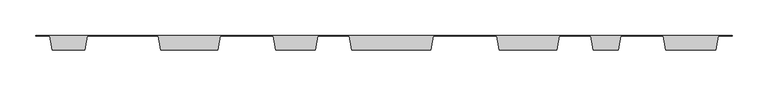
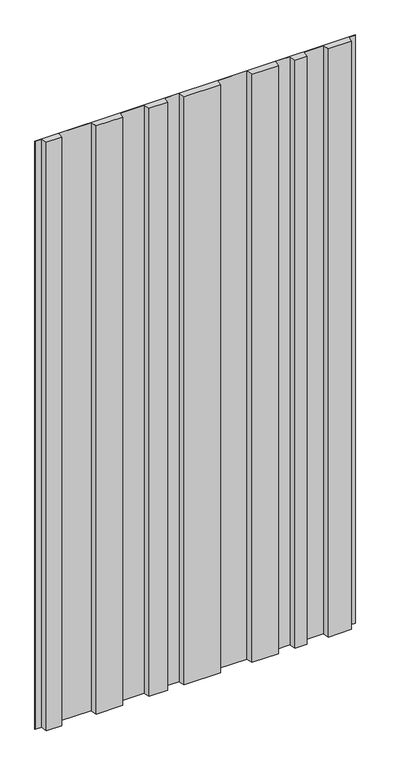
"""IFC4 building model written with IfcOpenShell, lengths in millimetres: plate geometry, ATELIERS 3S_NEW YORK QUEENS 980_VERTICAL : AZURO."""

from ifc_helpers import new_model, si_unit, origin, origin_with_axes, place, context, project, spatial, polyline, outline, extrude, source, transform, mapped, element, save


def plate_14ca5cb5(model_context):
    return source(origin(), model_context, "Body", "SweptSolid", [
        extrude(outline(polyline([(466.6596772, -20.75), (396.0303525, -20.75), (392.5038129, -0.75), (333.1331376, -0.75), (329.606598, -20.75), (293.9772732, -20.75), (290.4507336, -0.75), (246.0800584, -0.75), (242.5535187, -20.75), (161.924194, -20.75), (158.3976544, -0.75), (69.0269791, -0.75), (65.5004395, -20.75), (-45.1288852, -20.75), (-48.6554248, -0.75), (-93.0261001, -0.75), (-96.5526397, -20.75), (-152.1819644, -20.75), (-155.7085041, -0.75), (-230.0791793, -0.75), (-233.6057189, -20.75), (-314.2350437, -20.75), (-317.7615833, -0.75), (-417.1322586, -0.75), (-420.6587982, -20.75), (-466.7881229, -20.75), (-470.3058462, -0.8), (-490.0000002, -0.8), (-490.0000002, 0.0), (489.8715544, 0.0), (489.8715544, -0.8), (470.1774005, -0.8), (466.6596772, -20.75)])), origin_with_axes(), (0.0, 0.0, 1.0), 1900.0),
    ])


if __name__ == "__main__":
    model = new_model("IFC4")
    model_context = context("Model", 3, world=origin())
    ifc_project = project(units=[si_unit("LENGTHUNIT", "METRE", prefix="MILLI")], contexts=[model_context])
    site = spatial("IfcSite", under=ifc_project)
    building = spatial("IfcBuilding", under=site)
    placement = place(None, origin())
    plate_shape = plate_14ca5cb5(model_context)
    element("IfcPlate", 1, ObjectType="ATELIERS 3S_NEW YORK QUEENS 980_VERTICAL : AZURO", at=placement, inside=building, context=model_context, shape_type="MappedRepresentation", body=[
        mapped(plate_shape, transform((0.0, 0.0, 0.0), x_axis=(1.0, 0.0, 0.0), y_axis=(0.0, 1.0, 0.0), z_axis=(0.0, 0.0, 1.0))),
    ])
    save(model, "model.ifc")
